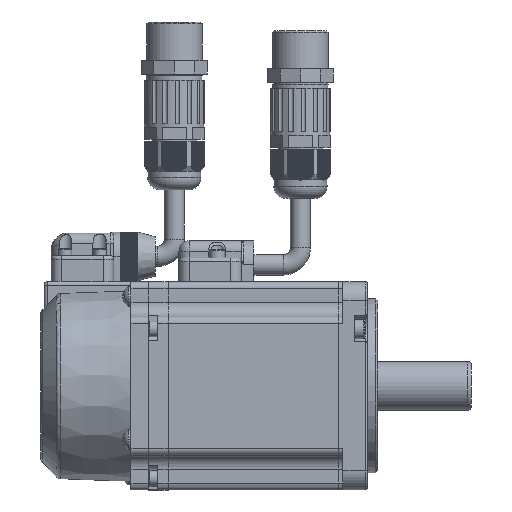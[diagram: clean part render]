
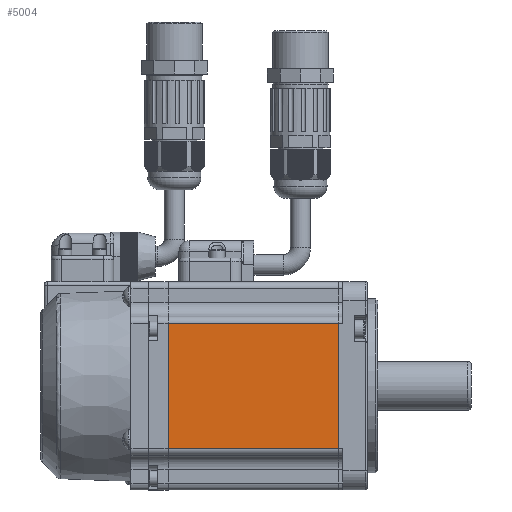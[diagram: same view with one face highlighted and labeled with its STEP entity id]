
A CAD part, left-side view. The second image highlights one B-rep face of the part: STEP entity #5004.
In plain terms, the highlighted planar face has unit normal (-1, 0, 0).
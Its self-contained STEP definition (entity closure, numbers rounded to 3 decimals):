
#5004=ADVANCED_FACE('',(#9446),#7711,.F.);
#7711=PLANE('',#47427);
#9446=FACE_OUTER_BOUND('',#11860,.T.);
#11860=EDGE_LOOP('',(#14931,#14932,#14933,#14934));
#14931=ORIENTED_EDGE('',*,*,#33026,.T.);
#14932=ORIENTED_EDGE('',*,*,#33027,.F.);
#14933=ORIENTED_EDGE('',*,*,#33028,.T.);
#14934=ORIENTED_EDGE('',*,*,#33011,.F.);
#28553=VERTEX_POINT('',#64181);
#28554=VERTEX_POINT('',#64183);
#28567=VERTEX_POINT('',#64212);
#28568=VERTEX_POINT('',#64214);
#33011=EDGE_CURVE('',#28553,#28554,#39822,.T.);
#33026=EDGE_CURVE('',#28553,#28567,#39829,.T.);
#33027=EDGE_CURVE('',#28568,#28567,#39830,.T.);
#33028=EDGE_CURVE('',#28568,#28554,#39831,.T.);
#39822=LINE('',#64182,#43619);
#39829=LINE('',#64211,#43626);
#39830=LINE('',#64213,#43627);
#39831=LINE('',#64215,#43628);
#43619=VECTOR('',#51750,1.);
#43626=VECTOR('',#51775,1.);
#43627=VECTOR('',#51776,1.);
#43628=VECTOR('',#51777,1.);
#47427=AXIS2_PLACEMENT_3D('',#64216,#51778,#51779);
#51750=DIRECTION('',(0.,0.,1.));
#51775=DIRECTION('',(0.,-1.,0.));
#51776=DIRECTION('',(0.,0.,-1.));
#51777=DIRECTION('',(0.,1.,0.));
#51778=DIRECTION('',(1.,0.,0.));
#51779=DIRECTION('',(0.,-1.,0.));
#64181=CARTESIAN_POINT('',(-115.303,144.291,-3.479));
#64182=CARTESIAN_POINT('',(-115.303,144.291,14.521));
#64183=CARTESIAN_POINT('',(-115.303,144.291,32.521));
#64211=CARTESIAN_POINT('',(-115.303,130.19,-3.479));
#64212=CARTESIAN_POINT('',(-115.303,95.19,-3.479));
#64213=CARTESIAN_POINT('',(-115.303,95.19,14.521));
#64214=CARTESIAN_POINT('',(-115.303,95.19,32.521));
#64215=CARTESIAN_POINT('',(-115.303,130.19,32.521));
#64216=CARTESIAN_POINT('',(-115.303,130.19,-15.479));
